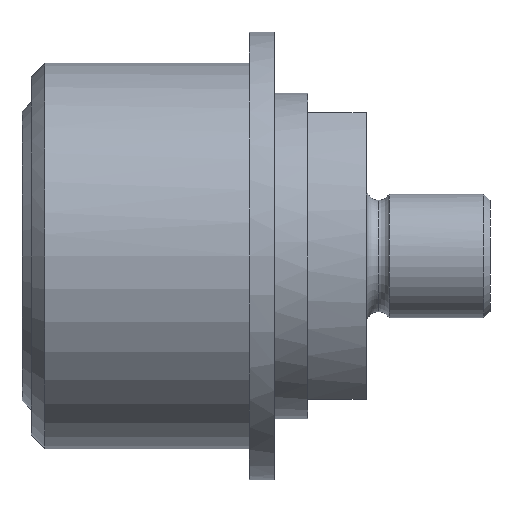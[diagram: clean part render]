
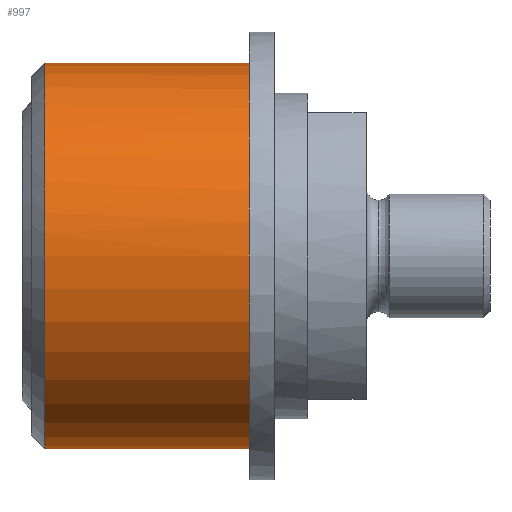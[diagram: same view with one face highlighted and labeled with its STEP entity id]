
A CAD part, front view. The second image highlights one B-rep face of the part: STEP entity #997.
In plain terms, the highlighted cylindrical face has radius 28 mm (diameter 56 mm), a partial arc.
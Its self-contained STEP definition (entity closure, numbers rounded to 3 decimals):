
#831=CARTESIAN_POINT('Vertex',(0.,0.,28.)) ;
#834=CARTESIAN_POINT('Axis2P3D Location',(0.,0.,0.)) ;
#838=CARTESIAN_POINT('Vertex',(0.,-28.,0.)) ;
#841=CARTESIAN_POINT('Axis2P3D Location',(0.,0.,0.)) ;
#845=CARTESIAN_POINT('Vertex',(0.,0.,-28.)) ;
#931=CARTESIAN_POINT('Line Origine',(35.,0.,-28.)) ;
#935=CARTESIAN_POINT('Vertex',(-29.697,0.,-28.)) ;
#952=CARTESIAN_POINT('Vertex',(-29.697,0.,28.)) ;
#955=CARTESIAN_POINT('Line Origine',(35.,0.,28.)) ;
#969=CARTESIAN_POINT('Axis2P3D Location',(35.,0.,0.)) ;
#975=CARTESIAN_POINT('Control Point',(-29.697,0.,28.)) ;
#976=CARTESIAN_POINT('Control Point',(-29.697,-8.796,28.)) ;
#977=CARTESIAN_POINT('Control Point',(-29.697,-17.601,24.556)) ;
#978=CARTESIAN_POINT('Control Point',(-29.697,-24.556,17.601)) ;
#979=CARTESIAN_POINT('Control Point',(-29.697,-28.,8.796)) ;
#980=CARTESIAN_POINT('Control Point',(-29.697,-28.,0.)) ;
#981=CARTESIAN_POINT('Vertex',(-29.697,-28.,0.)) ;
#984=CARTESIAN_POINT('Axis2P3D Location',(-29.697,0.,0.)) ;
#835=DIRECTION('Axis2P3D Direction',(1.,0.,-0.)) ;
#842=DIRECTION('Axis2P3D Direction',(1.,0.,-0.)) ;
#932=DIRECTION('Vector Direction',(-1.,0.,0.)) ;
#956=DIRECTION('Vector Direction',(-1.,0.,0.)) ;
#970=DIRECTION('Axis2P3D Direction',(-1.,-0.,-0.)) ;
#971=DIRECTION('Axis2P3D XDirection',(0.,0.,-1.)) ;
#985=DIRECTION('Axis2P3D Direction',(-1.,-0.,-0.)) ;
#836=AXIS2_PLACEMENT_3D('Circle Axis2P3D',#834,#835,$) ;
#843=AXIS2_PLACEMENT_3D('Circle Axis2P3D',#841,#842,$) ;
#972=AXIS2_PLACEMENT_3D('Cylinder Axis2P3D',#969,#970,#971) ;
#986=AXIS2_PLACEMENT_3D('Circle Axis2P3D',#984,#985,$) ;
#990=ORIENTED_EDGE('',*,*,#959,.T.) ;
#991=ORIENTED_EDGE('',*,*,#983,.T.) ;
#992=ORIENTED_EDGE('',*,*,#988,.T.) ;
#993=ORIENTED_EDGE('',*,*,#937,.T.) ;
#994=ORIENTED_EDGE('',*,*,#847,.F.) ;
#995=ORIENTED_EDGE('',*,*,#840,.F.) ;
#933=VECTOR('Line Direction',#932,1.) ;
#957=VECTOR('Line Direction',#956,1.) ;
#997=ADVANCED_FACE('AGS3412M18',(#996),#973,.T.) ;
#974=B_SPLINE_CURVE_WITH_KNOTS('',5,(#975,#976,#977,#978,#979,#980),.UNSPECIFIED.,.F.,.U.,(6,6),(-21.991,21.991),.UNSPECIFIED.) ;
#837=CIRCLE('generated circle',#836,28.) ;
#844=CIRCLE('generated circle',#843,28.) ;
#987=CIRCLE('generated circle',#986,28.) ;
#973=CYLINDRICAL_SURFACE('generated cylinder',#972,28.) ;
#840=EDGE_CURVE('',#832,#839,#837,.T.) ;
#847=EDGE_CURVE('',#839,#846,#844,.T.) ;
#937=EDGE_CURVE('',#936,#846,#934,.F.) ;
#959=EDGE_CURVE('',#832,#953,#958,.T.) ;
#983=EDGE_CURVE('',#953,#982,#974,.T.) ;
#988=EDGE_CURVE('',#982,#936,#987,.F.) ;
#989=EDGE_LOOP('',(#990,#991,#992,#993,#994,#995)) ;
#996=FACE_OUTER_BOUND('',#989,.T.) ;
#934=LINE('Line',#931,#933) ;
#958=LINE('Line',#955,#957) ;
#832=VERTEX_POINT('',#831) ;
#839=VERTEX_POINT('',#838) ;
#846=VERTEX_POINT('',#845) ;
#936=VERTEX_POINT('',#935) ;
#953=VERTEX_POINT('',#952) ;
#982=VERTEX_POINT('',#981) ;
